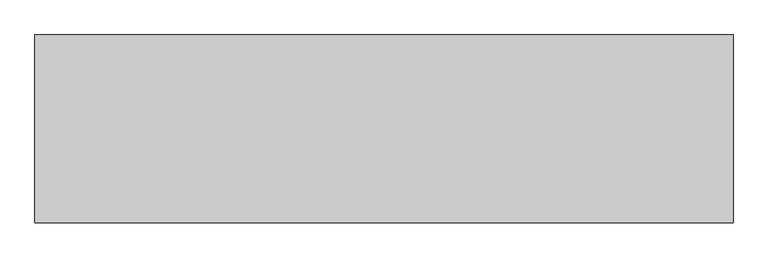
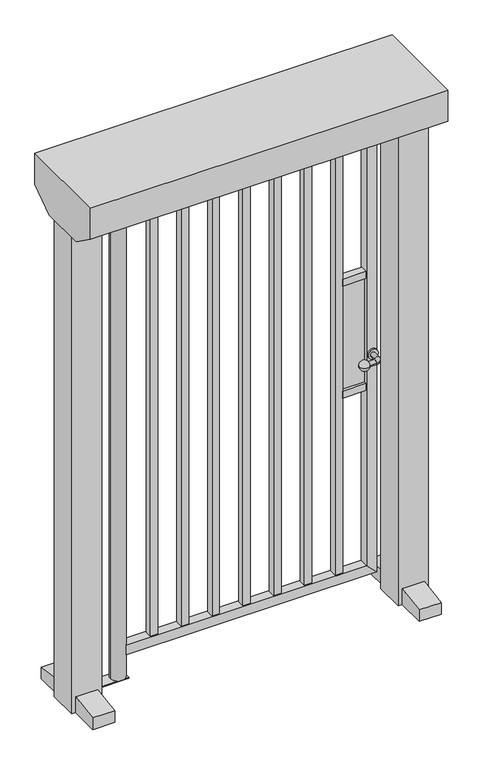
"""IFC4 building model written with IfcOpenShell, lengths in millimetres: proxy geometry, Gotschlich_Дверь_Моторизованная_Ecco_Mot_Solitar_R18 : ECCO MOT Solitar (Basic)."""

from ifc_helpers import new_model, si_unit, point, frame, frame_2d, origin, origin_with_axes, place, context, project, spatial, polyline, circle_curve, ellipse_curve, trimmed, segment, composite_curve, outline, extrude, source, transform, mapped, element, save
from ifc_brep_helpers import plane_surface, cylinder_surface, revolved_surface, advanced_brep


def mechanical_equipment_a992aaa1(model_context):
    return source(origin(), model_context, "Body", "SolidModel", [
        advanced_brep(
        [(527.3569506, -28.0, 1088.9456302), (507.3569506, -28.0, 1088.9456302), (527.3569506, -58.0, 1088.9456302), (507.3569506, -58.0, 1088.9456302), (502.3569506, -83.0, 1088.9456302), (502.3569506, -63.0, 1088.9456302), (474.6774586, -83.0, 1088.9456302), (474.6774586, -63.0, 1088.9456302), (457.3569506, -93.0, 1088.9456302), (457.3569506, -53.0, 1088.9456302)],
        [
            (0, 1, circle_curve(frame((517.3569506, -28.0, 1088.9456302), z_axis=(0.0, 1.0, 0.0), x_axis=(-1.0000000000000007, 0.0, 0.0)), 10.0)),
            (1, 0, circle_curve(frame((517.3569506, -28.0, 1088.9456302), z_axis=(0.0, 1.0, 0.0), x_axis=(-1.0000000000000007, 0.0, 0.0)), 10.0)),
            (0, 2),
            (2, 3, circle_curve(frame((517.3569506, -58.0, 1088.9456302), z_axis=(0.0, 1.0, 0.0), x_axis=(-1.0000000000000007, 0.0, 0.0)), 10.0)),
            (3, 1),
            (3, 2, circle_curve(frame((517.3569506, -58.0, 1088.9456302), z_axis=(0.0, 1.0, 0.0), x_axis=(-1.0000000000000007, 0.0, 0.0)), 10.0)),
            (2, 4, circle_curve(frame((502.3569506, -58.0, 1088.9456302), z_axis=(0.0, 0.0, -1.0), x_axis=(1.0000000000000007, 0.0, 0.0)), 25.0)),
            (4, 5, circle_curve(frame((502.3569506, -73.0, 1088.9456302), z_axis=(1.0000000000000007, 0.0, 0.0), x_axis=(0.0, 1.0000000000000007, 0.0)), 10.0)),
            (5, 3, circle_curve(frame((502.3569506, -58.0, 1088.9456302), z_axis=(0.0, 0.0, 1.0), x_axis=(1.0000000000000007, 0.0, 0.0)), 5.0)),
            (5, 4, circle_curve(frame((502.3569506, -73.0, 1088.9456302), z_axis=(1.0000000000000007, 0.0, 0.0), x_axis=(0.0, 1.0000000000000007, 0.0)), 10.0)),
            (4, 6),
            (6, 7, circle_curve(frame((474.6774586, -73.0, 1088.9456302), z_axis=(1.0, 0.0, 0.0), x_axis=(0.0, 1.0000000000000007, 0.0)), 10.0)),
            (7, 5),
            (7, 6, circle_curve(frame((474.6774586, -73.0, 1088.9456302), z_axis=(1.0, 0.0, 0.0), x_axis=(0.0, 1.0000000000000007, 0.0)), 10.0)),
            (8, 9, circle_curve(frame((457.3569506, -73.0, 1088.9456302), z_axis=(0.0, 0.0, -1.0), x_axis=(-1.0000000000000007, 0.0, 0.0)), 20.0)),
            (9, 7, circle_curve(frame((457.3569506, -73.0, 1088.9456302), z_axis=(0.0, 0.0, -1.0), x_axis=(1.0000000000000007, 0.0, 0.0)), 20.0)),
            (6, 8, circle_curve(frame((457.3569506, -73.0, 1088.9456302), z_axis=(0.0, 0.0, -1.0), x_axis=(1.0000000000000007, 0.0, 0.0)), 20.0)),
        ],
        [
            plane_surface(frame((517.3569506, -28.0, 1088.9456302), z_axis=(0.0, 1.0, 0.0), x_axis=(0.0, 0.0, 1.0))),
            cylinder_surface(frame((517.3569506, -28.0, 1088.9456302), z_axis=(0.0, 1.0000000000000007, 0.0), x_axis=(-1.0000000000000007, 0.0, 0.0)), 10.0),
            revolved_surface(trimmed(ellipse_curve(frame((517.3569506, -58.0, 1088.9456302), z_axis=(0.0, 1.0000000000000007, 0.0), x_axis=(-1.0000000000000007, 0.0, 0.0)), 10.0, 10.0), [point((527.3569506, -58.0, 1088.9456302))], [point((507.3569506, -58.0, 1088.9456302))], True, "CARTESIAN"), (502.3569506, -58.0, 1088.9456302), (0.0, 0.0, -1.0)),
            revolved_surface(trimmed(ellipse_curve(frame((517.3569506, -58.0, 1088.9456302), z_axis=(0.0, 1.0000000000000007, 0.0), x_axis=(-1.0000000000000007, 0.0, 0.0)), 10.0, 10.0), [point((507.3569506, -58.0, 1088.9456302))], [point((527.3569506, -58.0, 1088.9456302))], True, "CARTESIAN"), (502.3569506, -58.0, 1088.9456302), (0.0, 0.0, -1.0)),
            cylinder_surface(frame((502.3569506, -73.0, 1088.9456302), z_axis=(1.0000000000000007, 0.0, 0.0), x_axis=(0.0, 1.0000000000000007, 0.0)), 10.0),
            revolved_surface(trimmed(ellipse_curve(frame((457.3569506, -73.0, 1088.9456302), z_axis=(0.0, 0.0, 1.0), x_axis=(-1.0000000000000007, 0.0, 0.0)), 20.0, 20.0), [point((457.3569506, -53.0, 1088.9456302))], [point((457.3569506, -93.0, 1088.9456302))], True, "CARTESIAN"), (457.3569506, -63.0, 1088.9456302), (0.0, -1.0000000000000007, 0.0)),
        ],
        [
            (0, [[1, 2]]),
            (1, [[-1, 3, 4, 5]]),
            (1, [[-2, -5, 6, -3]]),
            (2, [[-4, 7, 8, 9]]),
            (3, [[-6, -9, 10, -7]]),
            (4, [[-8, 11, 12, 13]]),
            (4, [[-10, -13, 14, -11]]),
            (5, [[15, 16, -12, 17]]),
            (5, [[-15, -17, -14, -16]]),
        ],
    ),
        extrude(outline(composite_curve([segment(trimmed(circle_curve(frame_2d((1088.9456302, 519.8569506)), 20.0), [point((1088.9456302, 539.8569506))], [point((1088.9456302, 499.8569506))], False, "CARTESIAN"), True, "CONTINUOUS"), segment(trimmed(circle_curve(frame_2d((1088.9456302, 519.8569506)), 20.0), [point((1088.9456302, 499.8569506))], [point((1088.9456302, 539.8569506))], False, "CARTESIAN"), True, "CONTINUOUS")], self_intersect=False)), frame((0.0, -28.0, 0.0), z_axis=(0.0, 1.0, 0.0), x_axis=(0.0, 0.0, 1.0)), (0.0, 0.0, 1.0), 8.0),
        advanced_brep(
        [(527.3569506, 28.0, 1088.9456302), (507.3569506, 28.0, 1088.9456302), (507.3569506, 58.0, 1088.9456302), (527.3569506, 58.0, 1088.9456302), (502.3569506, 63.0, 1088.9456302), (502.3569506, 83.0, 1088.9456302), (474.6774586, 63.0, 1088.9456302), (474.6774586, 83.0, 1088.9456302), (457.3569506, 93.0, 1088.9456302), (457.3569506, 53.0, 1088.9456302)],
        [
            (0, 1, circle_curve(frame((517.3569506, 28.0, 1088.9456302), z_axis=(0.0, -1.0, 0.0), x_axis=(-1.0000000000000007, 0.0, 0.0)), 10.0)),
            (1, 0, circle_curve(frame((517.3569506, 28.0, 1088.9456302), z_axis=(0.0, -1.0, 0.0), x_axis=(-1.0000000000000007, 0.0, 0.0)), 10.0)),
            (1, 2),
            (2, 3, circle_curve(frame((517.3569506, 58.0, 1088.9456302), z_axis=(0.0, -1.0, 0.0), x_axis=(-1.0000000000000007, 0.0, 0.0)), 10.0)),
            (3, 0),
            (3, 2, circle_curve(frame((517.3569506, 58.0, 1088.9456302), z_axis=(0.0, -1.0, 0.0), x_axis=(-1.0000000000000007, 0.0, 0.0)), 10.0)),
            (2, 4, circle_curve(frame((502.3569506, 58.0, 1088.9456302), z_axis=(0.0, 0.0, 1.0), x_axis=(1.0000000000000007, 0.0, 0.0)), 5.0)),
            (4, 5, circle_curve(frame((502.3569506, 73.0, 1088.9456302), z_axis=(1.0000000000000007, 0.0, 0.0), x_axis=(0.0, -1.0000000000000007, 0.0)), 10.0)),
            (5, 3, circle_curve(frame((502.3569506, 58.0, 1088.9456302), z_axis=(0.0, 0.0, -1.0), x_axis=(1.0000000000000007, 0.0, 0.0)), 25.0)),
            (5, 4, circle_curve(frame((502.3569506, 73.0, 1088.9456302), z_axis=(1.0000000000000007, 0.0, 0.0), x_axis=(0.0, -1.0000000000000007, 0.0)), 10.0)),
            (4, 6),
            (6, 7, circle_curve(frame((474.6774586, 73.0, 1088.9456302), z_axis=(1.0, 0.0, 0.0), x_axis=(0.0, -1.0000000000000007, 0.0)), 10.0)),
            (7, 5),
            (7, 6, circle_curve(frame((474.6774586, 73.0, 1088.9456302), z_axis=(1.0, 0.0, 0.0), x_axis=(0.0, -1.0000000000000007, 0.0)), 10.0)),
            (8, 7, circle_curve(frame((457.3569506, 73.0, 1088.9456302), z_axis=(0.0, 0.0, -1.0), x_axis=(1.0000000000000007, 0.0, 0.0)), 20.0)),
            (6, 9, circle_curve(frame((457.3569506, 73.0, 1088.9456302), z_axis=(0.0, 0.0, -1.0), x_axis=(1.0000000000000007, 0.0, 0.0)), 20.0)),
            (9, 8, circle_curve(frame((457.3569506, 73.0, 1088.9456302), z_axis=(0.0, 0.0, -1.0), x_axis=(-1.0000000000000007, 0.0, 0.0)), 20.0)),
        ],
        [
            plane_surface(frame((517.3569506, 28.0, 1088.9456302), z_axis=(0.0, -1.0, 0.0), x_axis=(0.0, 0.0, 1.0))),
            cylinder_surface(frame((517.3569506, 28.0, 1088.9456302), z_axis=(0.0, -1.0000000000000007, 0.0), x_axis=(-1.0000000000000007, 0.0, 0.0)), 10.0),
            revolved_surface(trimmed(ellipse_curve(frame((517.3569506, 58.0, 1088.9456302), z_axis=(0.0, 1.0000000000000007, 0.0), x_axis=(-1.0000000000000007, 0.0, 0.0)), 10.0, 10.0), [point((527.3569506, 58.0, 1088.9456302))], [point((507.3569506, 58.0, 1088.9456302))], True, "CARTESIAN"), (502.3569506, 58.0, 1088.9456302), (0.0, 0.0, -1.0)),
            revolved_surface(trimmed(ellipse_curve(frame((517.3569506, 58.0, 1088.9456302), z_axis=(0.0, 1.0000000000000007, 0.0), x_axis=(-1.0000000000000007, 0.0, 0.0)), 10.0, 10.0), [point((507.3569506, 58.0, 1088.9456302))], [point((527.3569506, 58.0, 1088.9456302))], True, "CARTESIAN"), (502.3569506, 58.0, 1088.9456302), (0.0, 0.0, -1.0)),
            cylinder_surface(frame((502.3569506, 73.0, 1088.9456302), z_axis=(1.0000000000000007, 0.0, 0.0), x_axis=(0.0, -1.0000000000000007, 0.0)), 10.0),
            revolved_surface(trimmed(ellipse_curve(frame((457.3569506, 73.0, 1088.9456302), z_axis=(0.0, 0.0, -1.0), x_axis=(-1.0000000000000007, 0.0, 0.0)), 20.0, 20.0), [point((457.3569506, 53.0, 1088.9456302))], [point((457.3569506, 93.0, 1088.9456302))], True, "CARTESIAN"), (457.3569506, 63.0, 1088.9456302), (0.0, 1.0000000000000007, 0.0)),
        ],
        [
            (0, [[1, 2]]),
            (1, [[3, 4, 5, -2]]),
            (1, [[-5, 6, -3, -1]]),
            (2, [[7, 8, 9, -4]]),
            (3, [[-9, 10, -7, -6]]),
            (4, [[11, 12, 13, -8]]),
            (4, [[-13, 14, -11, -10]]),
            (5, [[15, -12, 16, 17]]),
            (5, [[-16, -14, -15, -17]]),
        ],
    ),
        extrude(outline(composite_curve([segment(trimmed(circle_curve(frame_2d((1088.9456302, 519.8569506)), 20.0), [point((1088.9456302, 539.8569506))], [point((1088.9456302, 499.8569506))], False, "CARTESIAN"), True, "CONTINUOUS"), segment(trimmed(circle_curve(frame_2d((1088.9456302, 519.8569506)), 20.0), [point((1088.9456302, 499.8569506))], [point((1088.9456302, 539.8569506))], False, "CARTESIAN"), True, "CONTINUOUS")], self_intersect=False)), frame((0.0, 20.0, 0.0), z_axis=(0.0, 1.0, 0.0), x_axis=(0.0, 0.0, 1.0)), (0.0, 0.0, 1.0), 8.0),
        extrude(outline(polyline([(402.3569506, -15.0), (402.3569506, 15.0), (497.3569506, 15.0), (497.3569506, -15.0), (402.3569506, -15.0)])), frame((0.0, 0.0, 1413.9456302), z_axis=(0.0, 0.0, 1.0), x_axis=(1.0, 0.0, 0.0)), (0.0, 0.0, 1.0), 30.0),
        extrude(outline(polyline([(402.3569506, -15.0), (402.3569506, 15.0), (497.3569506, 15.0), (497.3569506, -15.0), (402.3569506, -15.0)])), frame((0.0, 0.0, 933.9456302), z_axis=(0.0, 0.0, 1.0), x_axis=(1.0, 0.0, 0.0)), (0.0, 0.0, 1.0), 30.0),
        extrude(outline(polyline([(-222.6430494, 15.0), (-222.6430494, -15.0), (-252.6430494, -15.0), (-252.6430494, 15.0), (-222.6430494, 15.0)])), frame((0.0, 0.0, 183.9456302), z_axis=(0.0, 0.0, 1.0), x_axis=(1.0, 0.0, 0.0)), (0.0, 0.0, 1.0), 1820.0),
        extrude(outline(polyline([(-97.6430494, 15.0), (-97.6430494, -15.0), (-127.6430494, -15.0), (-127.6430494, 15.0), (-97.6430494, 15.0)])), frame((0.0, 0.0, 183.9456302), z_axis=(0.0, 0.0, 1.0), x_axis=(1.0, 0.0, 0.0)), (0.0, 0.0, 1.0), 1820.0),
        extrude(outline(polyline([(27.3569506, 15.0), (27.3569506, -15.0), (-2.6430494, -15.0), (-2.6430494, 15.0), (27.3569506, 15.0)])), frame((0.0, 0.0, 183.9456302), z_axis=(0.0, 0.0, 1.0), x_axis=(1.0, 0.0, 0.0)), (0.0, 0.0, 1.0), 1820.0),
        extrude(outline(polyline([(152.3569506, 15.0), (152.3569506, -15.0), (122.3569506, -15.0), (122.3569506, 15.0), (152.3569506, 15.0)])), frame((0.0, 0.0, 183.9456302), z_axis=(0.0, 0.0, 1.0), x_axis=(1.0, 0.0, 0.0)), (0.0, 0.0, 1.0), 1820.0),
        extrude(outline(polyline([(277.3569506, 15.0), (277.3569506, -15.0), (247.3569506, -15.0), (247.3569506, 15.0), (277.3569506, 15.0)])), frame((0.0, 0.0, 183.9456302), z_axis=(0.0, 0.0, 1.0), x_axis=(1.0, 0.0, 0.0)), (0.0, 0.0, 1.0), 1820.0),
        extrude(outline(polyline([(-347.6430494, 15.0), (-347.6430494, -15.0), (-377.6430494, -15.0), (-377.6430494, 15.0), (-347.6430494, 15.0)])), frame((0.0, 0.0, 183.9456302), z_axis=(0.0, 0.0, 1.0), x_axis=(1.0, 0.0, 0.0)), (0.0, 0.0, 1.0), 1820.0),
        extrude(outline(polyline([(402.3569506, 15.0), (402.3569506, -15.0), (372.3569506, -15.0), (372.3569506, 15.0), (402.3569506, 15.0)])), frame((0.0, 0.0, 183.9456302), z_axis=(0.0, 0.0, 1.0), x_axis=(1.0, 0.0, 0.0)), (0.0, 0.0, 1.0), 1820.0),
        extrude(outline(polyline([(2003.9456302, -502.51), (2003.9456302, 497.3569506), (2043.9456302, 537.3569506), (2043.9456302, -502.51), (2003.9456302, -502.51)])), frame((0.0, -20.0, 0.0), z_axis=(0.0, 1.0, 0.0), x_axis=(0.0, 0.0, 1.0)), (0.0, 0.0, 1.0), 40.0),
        extrude(outline(polyline([(143.9456302, 537.3569506), (2043.9456302, 537.3569506), (2003.9456302, 497.3569506), (183.9456302, 497.3569506), (143.9456302, 537.3569506)])), frame((0.0, -20.0, 0.0), z_axis=(0.0, 1.0, 0.0), x_axis=(0.0, 0.0, 1.0)), (0.0, 0.0, 1.0), 40.0),
        extrude(outline(polyline([(183.9456302, -502.51), (143.9456302, -502.51), (143.9456302, 537.3569506), (183.9456302, 497.3569506), (183.9456302, -502.51)])), frame((0.0, -20.0, 0.0), z_axis=(0.0, 1.0, 0.0), x_axis=(0.0, 0.0, 1.0)), (0.0, 0.0, 1.0), 40.0),
        extrude(outline(polyline([(-472.51, 25.0), (-472.51, -25.0), (-604.51, -25.0), (-604.51, 25.0), (-472.51, 25.0)])), frame((0.0, 0.0, 42.8502744), z_axis=(0.0, 0.0, 1.0), x_axis=(1.0, 0.0, 0.0)), (0.0, 0.0, 1.0), 5.0),
        extrude(outline(polyline([(497.3569506, 5.0), (497.3569506, -5.0), (402.3569506, -5.0), (402.3569506, 5.0), (497.3569506, 5.0)])), frame((0.0, 0.0, 948.9456302), z_axis=(0.0, 0.0, 1.0), x_axis=(1.0, 0.0, 0.0)), (0.0, 0.0, 1.0), 480.0),
        extrude(outline(composite_curve([segment(trimmed(circle_curve(frame_2d((-502.51, 0.0)), 30.0), [point((-472.51, 0.0))], [point((-532.51, 0.0))], False, "CARTESIAN"), True, "CONTINUOUS"), segment(trimmed(circle_curve(frame_2d((-502.51, 0.0)), 30.0), [point((-532.51, 0.0))], [point((-472.51, 0.0))], False, "CARTESIAN"), True, "CONTINUOUS")], self_intersect=False)), frame((0.0, 0.0, 47.8502744), z_axis=(0.0, 0.0, 1.0), x_axis=(1.0, 0.0, 0.0)), (0.0, 0.0, 1.0), 2041.6738354),
        extrude(outline(polyline([(195.0, 2252.0), (195.0, 2118.6211865), (95.0, 2047.5), (-95.0, 2047.5), (-195.0, 2118.6211865), (-195.0, 2252.0), (195.0, 2252.0)])), frame((-725.5, 0.0, 0.0), z_axis=(1.0, 0.0, 0.0), x_axis=(0.0, 1.0, 0.0)), (0.0, 0.0, 1.0), 1451.0),
        extrude(outline(polyline([(-180.0, 0.0), (-180.0, 49.5301008), (-61.0, 67.85), (-61.0, 0.0), (-180.0, 0.0)])), frame((617.51, 0.0, 0.0), z_axis=(1.0, 0.0, 0.0), x_axis=(0.0, 1.0, 0.0)), (0.0, 0.0, 1.0), 90.0),
        extrude(outline(polyline([(180.0, 0.0), (61.0, 0.0), (61.0, 67.85), (180.0, 49.5301008), (180.0, 0.0)])), frame((617.51, 0.0, 0.0), z_axis=(1.0, 0.0, 0.0), x_axis=(0.0, 1.0, 0.0)), (0.0, 0.0, 1.0), 90.0),
        extrude(outline(polyline([(723.51, -61.0), (601.51, -61.0), (601.51, 61.0), (723.51, 61.0), (723.51, -61.0)])), origin_with_axes(), (0.0, 0.0, 1.0), 2047.5),
        extrude(outline(polyline([(180.0, 0.0), (61.0, 0.0), (61.0, 67.85), (180.0, 49.5301008), (180.0, 0.0)])), frame((-707.51, 0.0, 0.0), z_axis=(1.0, 0.0, 0.0), x_axis=(0.0, 1.0, 0.0)), (0.0, 0.0, 1.0), 90.0),
        extrude(outline(polyline([(-180.0, 0.0), (-180.0, 49.5301008), (-61.0, 67.85), (-61.0, 0.0), (-180.0, 0.0)])), frame((-707.51, 0.0, 0.0), z_axis=(1.0, 0.0, 0.0), x_axis=(0.0, 1.0, 0.0)), (0.0, 0.0, 1.0), 90.0),
        extrude(outline(polyline([(-723.51, 61.0), (-601.51, 61.0), (-601.51, -61.0), (-723.51, -61.0), (-723.51, 61.0)])), origin_with_axes(), (0.0, 0.0, 1.0), 2047.5),
    ])


if __name__ == "__main__":
    model = new_model("IFC4")
    model_context = context("Model", 3, world=origin())
    ifc_project = project(units=[si_unit("LENGTHUNIT", "METRE", prefix="MILLI")], contexts=[model_context])
    site = spatial("IfcSite", under=ifc_project)
    building = spatial("IfcBuilding", under=site)
    placement = place(None, origin())
    mechanical_equipment_shape = mechanical_equipment_a992aaa1(model_context)
    element("IfcBuildingElementProxy", 1, Name="Gotschlich_Дверь_Моторизованная_Ecco_Mot_Solitar_R18 : ECCO MOT Solitar (Basic)", ObjectType="Gotschlich_Дверь_Моторизованная_Ecco_Mot_Solitar_R18 : ECCO MOT Solitar (Basic)", at=placement, inside=building, context=model_context, shape_type="MappedRepresentation", body=[
        mapped(mechanical_equipment_shape, transform((0.0, 0.0, 0.0), x_axis=(1.0, 0.0, 0.0), y_axis=(0.0, 1.0, 0.0), z_axis=(0.0, 0.0, 1.0))),
    ])
    save(model, "model.ifc")
